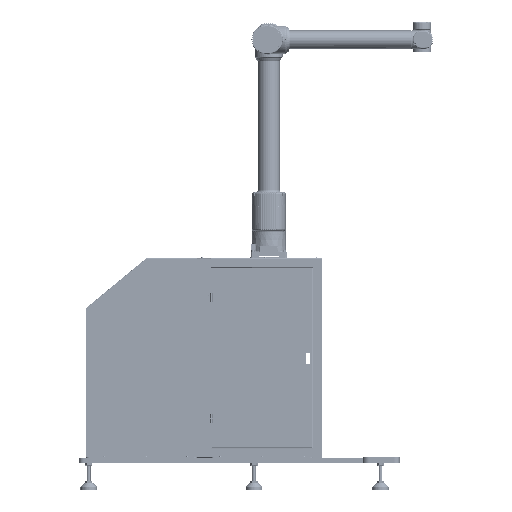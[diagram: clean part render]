
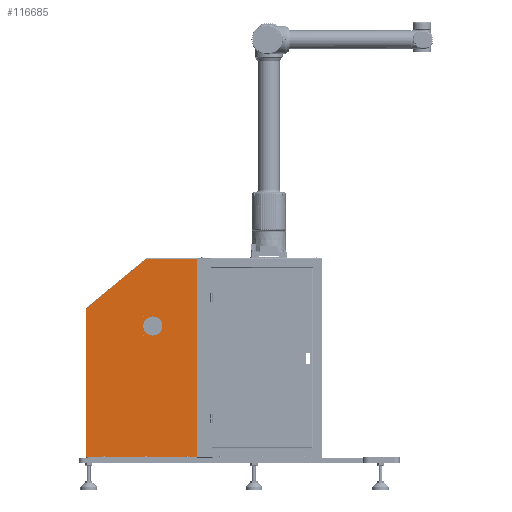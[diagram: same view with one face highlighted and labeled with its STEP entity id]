
A CAD part, top view. The second image highlights one B-rep face of the part: STEP entity #116685.
In plain terms, the highlighted planar face has unit normal (0, 0, 1).
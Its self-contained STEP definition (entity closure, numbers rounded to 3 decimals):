
#116685=ADVANCED_FACE('',(#141866,#141867,#141868,#141869,#141870,#141871),
#132151,.F.);
#132151=PLANE('',#393580);
#141866=FACE_BOUND('',#151684,.T.);
#141867=FACE_BOUND('',#151685,.T.);
#141868=FACE_BOUND('',#151686,.T.);
#141869=FACE_BOUND('',#151687,.T.);
#141870=FACE_BOUND('',#151688,.T.);
#141871=FACE_BOUND('',#151689,.T.);
#151684=EDGE_LOOP('',(#195982,#195983,#195984,#195985,#195986,#195987,#195988));
#151685=EDGE_LOOP('',(#195989));
#151686=EDGE_LOOP('',(#195990));
#151687=EDGE_LOOP('',(#195991));
#151688=EDGE_LOOP('',(#195992));
#151689=EDGE_LOOP('',(#195993));
#171195=CIRCLE('',#393440,2.25);
#171197=CIRCLE('',#393443,2.25);
#171199=CIRCLE('',#393446,2.25);
#171201=CIRCLE('',#393449,52.);
#171203=CIRCLE('',#393452,2.25);
#195982=ORIENTED_EDGE('',*,*,#305497,.T.);
#195983=ORIENTED_EDGE('',*,*,#305488,.T.);
#195984=ORIENTED_EDGE('',*,*,#305499,.T.);
#195985=ORIENTED_EDGE('',*,*,#305500,.F.);
#195986=ORIENTED_EDGE('',*,*,#305501,.F.);
#195987=ORIENTED_EDGE('',*,*,#305502,.F.);
#195988=ORIENTED_EDGE('',*,*,#305503,.T.);
#195989=ORIENTED_EDGE('',*,*,#305293,.T.);
#195990=ORIENTED_EDGE('',*,*,#305295,.T.);
#195991=ORIENTED_EDGE('',*,*,#305297,.T.);
#195992=ORIENTED_EDGE('',*,*,#305299,.T.);
#195993=ORIENTED_EDGE('',*,*,#305301,.T.);
#272528=VERTEX_POINT('',#537426);
#272530=VERTEX_POINT('',#537431);
#272532=VERTEX_POINT('',#537436);
#272534=VERTEX_POINT('',#537441);
#272536=VERTEX_POINT('',#537446);
#272661=VERTEX_POINT('',#537829);
#272662=VERTEX_POINT('',#537831);
#272667=VERTEX_POINT('',#537849);
#272668=VERTEX_POINT('',#537853);
#272669=VERTEX_POINT('',#537855);
#272670=VERTEX_POINT('',#537857);
#272671=VERTEX_POINT('',#537859);
#305293=EDGE_CURVE('',#272528,#272528,#171195,.T.);
#305295=EDGE_CURVE('',#272530,#272530,#171197,.T.);
#305297=EDGE_CURVE('',#272532,#272532,#171199,.T.);
#305299=EDGE_CURVE('',#272534,#272534,#171201,.T.);
#305301=EDGE_CURVE('',#272536,#272536,#171203,.T.);
#305488=EDGE_CURVE('',#272662,#272661,#343594,.T.);
#305497=EDGE_CURVE('',#272667,#272662,#343600,.T.);
#305499=EDGE_CURVE('',#272661,#272668,#343602,.T.);
#305500=EDGE_CURVE('',#272669,#272668,#343603,.T.);
#305501=EDGE_CURVE('',#272670,#272669,#343604,.T.);
#305502=EDGE_CURVE('',#272671,#272670,#343605,.T.);
#305503=EDGE_CURVE('',#272671,#272667,#343606,.T.);
#343594=LINE('',#537830,#367415);
#343600=LINE('',#537848,#367421);
#343602=LINE('',#537852,#367423);
#343603=LINE('',#537854,#367424);
#343604=LINE('',#537856,#367425);
#343605=LINE('',#537858,#367426);
#343606=LINE('',#537860,#367427);
#367415=VECTOR('',#427239,1.);
#367421=VECTOR('',#427259,1.);
#367423=VECTOR('',#427263,1.);
#367424=VECTOR('',#427264,1.);
#367425=VECTOR('',#427265,1.);
#367426=VECTOR('',#427266,1.);
#367427=VECTOR('',#427267,1.);
#393440=AXIS2_PLACEMENT_3D('',#537425,#426836,#426837);
#393443=AXIS2_PLACEMENT_3D('',#537430,#426842,#426843);
#393446=AXIS2_PLACEMENT_3D('',#537435,#426848,#426849);
#393449=AXIS2_PLACEMENT_3D('',#537440,#426854,#426855);
#393452=AXIS2_PLACEMENT_3D('',#537445,#426860,#426861);
#393580=AXIS2_PLACEMENT_3D('',#537861,#427268,#427269);
#426836=DIRECTION('',(0.,0.,-1.));
#426837=DIRECTION('',(-1.,0.,0.));
#426842=DIRECTION('',(0.,0.,-1.));
#426843=DIRECTION('',(-1.,0.,0.));
#426848=DIRECTION('',(0.,0.,-1.));
#426849=DIRECTION('',(-1.,0.,0.));
#426854=DIRECTION('',(0.,0.,-1.));
#426855=DIRECTION('',(-1.,0.,0.));
#426860=DIRECTION('',(0.,0.,-1.));
#426861=DIRECTION('',(-1.,0.,0.));
#427239=DIRECTION('',(1.,0.,0.));
#427259=DIRECTION('',(0.,1.,0.));
#427263=DIRECTION('',(0.,1.,0.));
#427264=DIRECTION('',(1.,0.,0.));
#427265=DIRECTION('',(0.771,0.637,0.));
#427266=DIRECTION('',(0.,1.,0.));
#427267=DIRECTION('',(1.,0.,0.));
#427268=DIRECTION('',(0.,0.,-1.));
#427269=DIRECTION('',(0.,-1.,0.));
#537425=CARTESIAN_POINT('',(-680.825,-355.7,236.));
#537426=CARTESIAN_POINT('',(-683.075,-355.7,236.));
#537430=CARTESIAN_POINT('',(-580.825,-455.7,236.));
#537431=CARTESIAN_POINT('',(-583.075,-455.7,236.));
#537435=CARTESIAN_POINT('',(-680.825,-455.7,236.));
#537436=CARTESIAN_POINT('',(-683.075,-455.7,236.));
#537440=CARTESIAN_POINT('',(-630.825,-405.7,236.));
#537441=CARTESIAN_POINT('',(-682.825,-405.7,236.));
#537445=CARTESIAN_POINT('',(-580.825,-355.7,236.));
#537446=CARTESIAN_POINT('',(-583.075,-355.7,236.));
#537829=CARTESIAN_POINT('',(-391.525,-1120.2,236.));
#537830=CARTESIAN_POINT('',(-1032.525,-1120.2,236.));
#537831=CARTESIAN_POINT('',(-993.525,-1120.2,236.));
#537848=CARTESIAN_POINT('',(-993.525,-1122.7,236.));
#537849=CARTESIAN_POINT('',(-993.525,-1122.7,236.));
#537852=CARTESIAN_POINT('',(-391.525,-1122.7,236.));
#537853=CARTESIAN_POINT('',(-391.525,-38.5,236.));
#537854=CARTESIAN_POINT('',(-392.525,-38.5,236.));
#537855=CARTESIAN_POINT('',(-665.465,-38.5,236.));
#537856=CARTESIAN_POINT('',(-665.465,-38.5,236.));
#537857=CARTESIAN_POINT('',(-994.325,-310.171,236.));
#537858=CARTESIAN_POINT('',(-994.325,-313.171,236.));
#537859=CARTESIAN_POINT('',(-994.325,-1122.7,236.));
#537860=CARTESIAN_POINT('',(-1032.525,-1122.7,236.));
#537861=CARTESIAN_POINT('',(-1032.525,-1122.7,236.));
